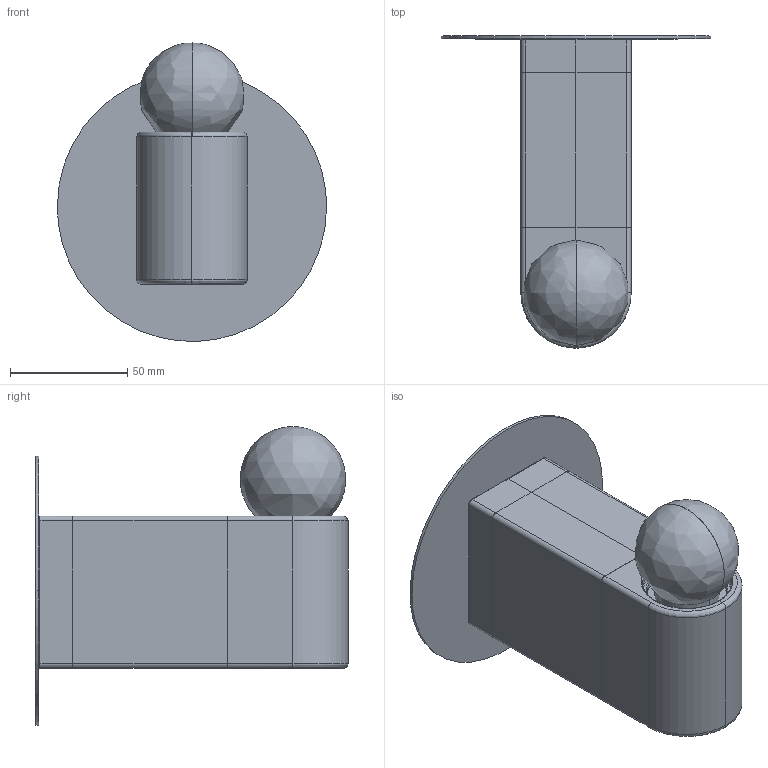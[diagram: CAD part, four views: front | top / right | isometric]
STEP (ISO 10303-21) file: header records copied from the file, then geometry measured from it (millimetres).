
FILE_DESCRIPTION(/* description */ (''),/* implementation_level */ '2;1');
FILE_NAME(/* name */ 'MA_White Porcelain Series D2_120V_2017',/* time_stamp */ '2020-11-30T11:49:51+00:00',/* author */ (''),/* organization */ (''),/* preprocessor_version */ 'ST-DEVELOPER v15',/* originating_system */ '',/* authorisation */ '');
FILE_SCHEMA (('AUTOMOTIVE_DESIGN'));
Length unit declared in the file: millimetre
Products named in the file (1): Document
Bounding box: 115 x 133.2 x 127.5 mm (x, y, z)
Volume: 12502.3 mm3; surface area: 68508.1 mm2
Topology: 1 solids, 5 shells, 130 faces, 338 edges, 208 vertices
Faces by surface type: bspline 120, plane 10
Entity records: 6953 total; most frequent: CARTESIAN_POINT 5242, ORIENTED_EDGE 643, EDGE_CURVE 335, VERTEX_POINT 207, ADVANCED_FACE 130, FACE_OUTER_BOUND 130, EDGE_LOOP 130, B_SPLINE_CURVE_WITH_KNOTS 43
